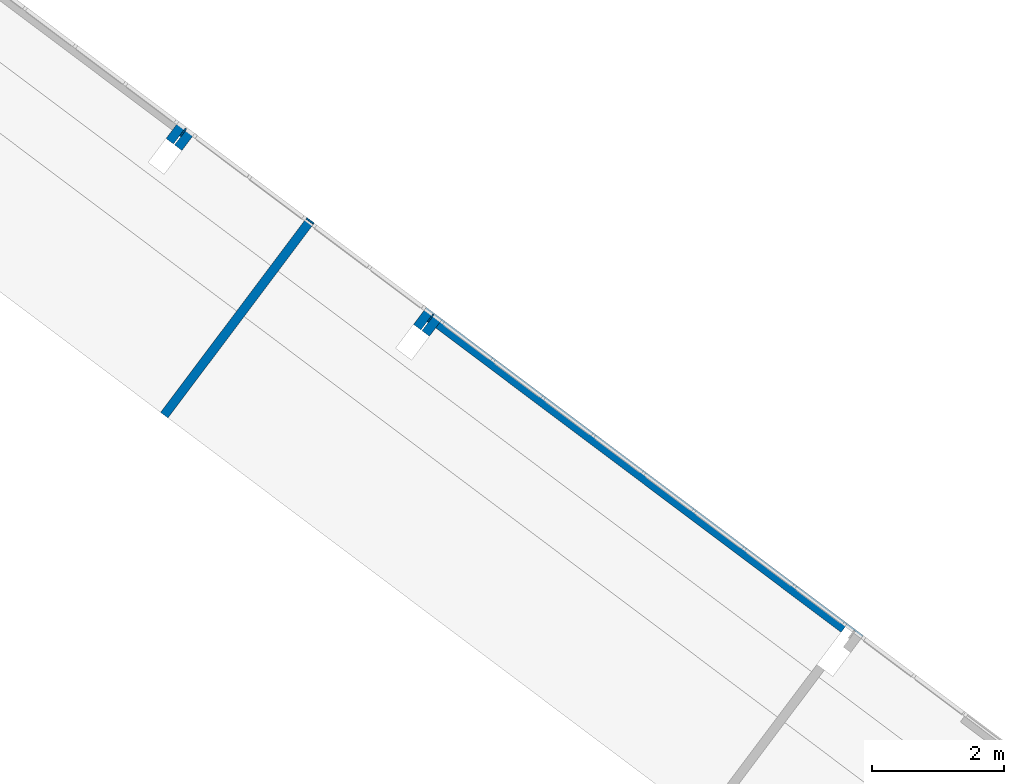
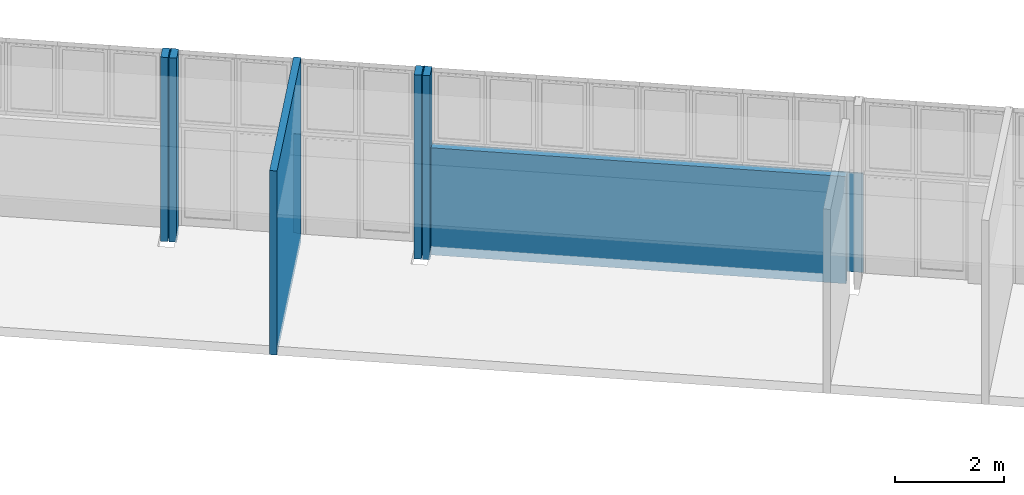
# One storey, part 6 of 18: 10 walls.
"""IFC2X3 building model written with IfcOpenShell, lengths in metres."""

from ifc_helpers import new_model, entity, si_unit, converted_unit, derived_unit, direction, frame, frame_2d, origin, place, context, subcontext, project, spatial, rectangle, extrude, material, layer, layer_set, layer_usage, type_object, element, save


model = new_model("IFC2X3")

# Units and contexts
model_context = context("Model", 3, precision=1e-05, world=origin(), true_north=direction((6.123031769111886e-17, 1.0)))
body_context = subcontext(model_context, "Body", "Model", "MODEL_VIEW")
ifc_project = project(units=[si_unit("LENGTHUNIT", "METRE"), si_unit("AREAUNIT", "SQUARE_METRE"), si_unit("VOLUMEUNIT", "CUBIC_METRE"), converted_unit("PLANEANGLEUNIT", "DEGREE", entity("IfcRatioMeasure", 0.017453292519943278), si_unit("PLANEANGLEUNIT", "RADIAN"), dimensions=[0, 0, 0, 0, 0, 0, 0]), si_unit("MASSUNIT", "GRAM", prefix="KILO"), derived_unit("MASSDENSITYUNIT", [(si_unit("MASSUNIT", "GRAM", prefix="KILO"), 1), (si_unit("LENGTHUNIT", "METRE"), -3)]), derived_unit("IONCONCENTRATIONUNIT", [(si_unit("MASSUNIT", "GRAM", prefix="KILO"), 1), (si_unit("LENGTHUNIT", "METRE"), -3)]), derived_unit("MOMENTOFINERTIAUNIT", [(si_unit("LENGTHUNIT", "METRE"), 4)]), si_unit("TIMEUNIT", "SECOND"), si_unit("FREQUENCYUNIT", "HERTZ"), si_unit("THERMODYNAMICTEMPERATUREUNIT", "DEGREE_CELSIUS"), derived_unit("THERMALTRANSMITTANCEUNIT", [(si_unit("MASSUNIT", "GRAM", prefix="KILO"), 1), (si_unit("THERMODYNAMICTEMPERATUREUNIT", "KELVIN"), -1), (si_unit("TIMEUNIT", "SECOND"), -3)]), derived_unit("THERMALCONDUCTANCEUNIT", [(si_unit("MASSUNIT", "GRAM", prefix="KILO"), 1), (si_unit("THERMODYNAMICTEMPERATUREUNIT", "KELVIN"), -1), (si_unit("TIMEUNIT", "SECOND"), -3), (si_unit("LENGTHUNIT", "METRE"), 1)]), derived_unit("VOLUMETRICFLOWRATEUNIT", [(si_unit("LENGTHUNIT", "METRE"), 3), (si_unit("TIMEUNIT", "SECOND"), -1)]), derived_unit("MASSFLOWRATEUNIT", [(si_unit("MASSUNIT", "GRAM", prefix="KILO"), 1), (si_unit("TIMEUNIT", "SECOND"), -1)]), derived_unit("ROTATIONALFREQUENCYUNIT", [(si_unit("TIMEUNIT", "SECOND"), -1)]), si_unit("ELECTRICCURRENTUNIT", "AMPERE"), si_unit("ELECTRICVOLTAGEUNIT", "VOLT"), si_unit("POWERUNIT", "WATT"), si_unit("FORCEUNIT", "NEWTON", prefix="KILO"), si_unit("ILLUMINANCEUNIT", "LUX"), si_unit("LUMINOUSFLUXUNIT", "LUMEN"), si_unit("LUMINOUSINTENSITYUNIT", "CANDELA"), derived_unit("USERDEFINED", [(si_unit("MASSUNIT", "GRAM", prefix="KILO"), -1), (si_unit("LENGTHUNIT", "METRE"), -2), (si_unit("TIMEUNIT", "SECOND"), 3), (si_unit("LUMINOUSFLUXUNIT", "LUMEN"), 1)]), derived_unit("USERDEFINED", [(si_unit("MASSUNIT", "GRAM", prefix="KILO"), 1), (si_unit("TIMEUNIT", "SECOND"), -3), (si_unit("LENGTHUNIT", "METRE"), 3), (si_unit("ELECTRICCURRENTUNIT", "AMPERE"), -2)]), derived_unit("SOUNDPOWERUNIT", [(si_unit("MASSUNIT", "GRAM", prefix="KILO"), 1), (si_unit("TIMEUNIT", "SECOND"), -3), (si_unit("LENGTHUNIT", "METRE"), 2)]), derived_unit("SOUNDPRESSUREUNIT", [(si_unit("MASSUNIT", "GRAM", prefix="KILO"), 1), (si_unit("LENGTHUNIT", "METRE"), -1), (si_unit("TIMEUNIT", "SECOND"), -2)]), derived_unit("LINEARVELOCITYUNIT", [(si_unit("LENGTHUNIT", "METRE"), 1), (si_unit("TIMEUNIT", "SECOND"), -1)]), si_unit("PRESSUREUNIT", "PASCAL"), derived_unit("USERDEFINED", [(si_unit("MASSUNIT", "GRAM", prefix="KILO"), 1), (si_unit("LENGTHUNIT", "METRE"), -2), (si_unit("TIMEUNIT", "SECOND"), -2)]), derived_unit("LINEARFORCEUNIT", [(si_unit("MASSUNIT", "GRAM", prefix="KILO"), 1), (si_unit("TIMEUNIT", "SECOND"), -2)]), derived_unit("PLANARFORCEUNIT", [(si_unit("MASSUNIT", "GRAM", prefix="KILO"), 1), (si_unit("LENGTHUNIT", "METRE"), -1), (si_unit("TIMEUNIT", "SECOND"), -2)]), derived_unit("SPECIFICHEATCAPACITYUNIT", [(si_unit("THERMODYNAMICTEMPERATUREUNIT", "KELVIN"), -1), (si_unit("LENGTHUNIT", "METRE"), 2), (si_unit("TIMEUNIT", "SECOND"), -2)]), derived_unit("HEATINGVALUEUNIT", [(si_unit("LENGTHUNIT", "METRE"), 2), (si_unit("TIMEUNIT", "SECOND"), -2)]), derived_unit("VAPORPERMEABILITYUNIT", [(si_unit("LENGTHUNIT", "METRE"), -1), (si_unit("TIMEUNIT", "SECOND"), 1)]), derived_unit("DYNAMICVISCOSITYUNIT", [(si_unit("MASSUNIT", "GRAM", prefix="KILO"), 1), (si_unit("TIMEUNIT", "SECOND"), -1), (si_unit("LENGTHUNIT", "METRE"), -1)]), derived_unit("THERMALEXPANSIONCOEFFICIENTUNIT", [(si_unit("THERMODYNAMICTEMPERATUREUNIT", "KELVIN"), -1)]), derived_unit("MODULUSOFELASTICITYUNIT", [(si_unit("MASSUNIT", "GRAM", prefix="KILO"), 1), (si_unit("LENGTHUNIT", "METRE"), -1), (si_unit("TIMEUNIT", "SECOND"), -2)]), derived_unit("ISOTHERMALMOISTURECAPACITYUNIT", [(si_unit("LENGTHUNIT", "METRE"), 3), (si_unit("MASSUNIT", "GRAM", prefix="KILO"), -1)]), derived_unit("MOISTUREDIFFUSIVITYUNIT", [(si_unit("TIMEUNIT", "SECOND"), -1), (si_unit("LENGTHUNIT", "METRE"), 2)])], contexts=[model_context])

# Site, building, storey
site_placement = place(None, frame((0.0, 0.0, 235.0), z_axis=(0.0, 0.0, 1.0), x_axis=(-0.7996477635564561, 0.6004693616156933, 0.0)))
site = spatial("IfcSite", under=ifc_project, at=site_placement, Name="Default", CompositionType="ELEMENT")
building_placement = place(site_placement, origin())
building = spatial("IfcBuilding", under=site, at=building_placement, CompositionType="ELEMENT")
storey_placement = place(building_placement, frame((0.0, 0.0, -4.459999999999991)))
storey = spatial("IfcBuildingStorey", under=building, at=storey_placement, Name="PS1- Vestuari", CompositionType="ELEMENT", Elevation=-4.459999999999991)

# Walls
ifc_material_1 = material(Name="_Ceràmica- ENV")
ifc_layer_1 = layer(ifc_material_1, 0.14)
ifc_layer_set_1 = layer_set([ifc_layer_1], Name="Muro básico:ENV- Ceràmic- 14 cm")
ifc_layer_usage_1 = layer_usage(ifc_layer_set_1, "AXIS2", "POSITIVE", -0.07)
wall_type_1 = type_object("IfcWallType", Name="Muro básico:ENV- Ceràmic- 14 cm", PredefinedType="STANDARD", material=ifc_layer_set_1)
for number, where, z_axis, x_axis, name in (
    (1, (66.51514768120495, -40.44019175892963, -0.2), (0.0, 0.0, 1.0), (0.0, 1.0, 0.0), "Muro básico:ENV- Ceràmic- 14 cm"),
    (2, (66.67514768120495, -40.14019175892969, -0.2), (0.0, 0.0, 1.0), (0.0, -1.0, 0.0), "Muro básico:ENV- Ceràmic- 14 cm"),
):
    element("IfcWallStandardCase", number, at=place(storey_placement, frame(where, z_axis=z_axis, x_axis=x_axis)), inside=storey, type_object=wall_type_1, material=ifc_layer_usage_1, Name=name, ObjectType="Muro básico:ENV- Ceràmic- 14 cm", context=body_context, shape_type="SweptSolid", body=[
        extrude(rectangle(XDim=0.2999999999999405, YDim=0.14000000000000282, at=frame_2d((0.14999999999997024, 0.0), x_axis=(-1.0, 0.0))), origin(), (0.0, 0.0, 1.0), 4.14),
    ])
wall_1_placement = place(storey_placement, frame((64.24514768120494, -36.76519175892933, -0.2), z_axis=(0.0, 0.0, 1.0), x_axis=(0.0, -1.0, 0.0)))
element("IfcWallStandardCase", 3, at=wall_1_placement, inside=storey, type_object=wall_type_1, material=ifc_layer_usage_1, Name="Muro básico:ENV- Ceràmic- 14 cm", ObjectType="Muro básico:ENV- Ceràmic- 14 cm", context=body_context, shape_type="SweptSolid", body=[
    extrude(rectangle(XDim=3.6750000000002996, YDim=0.14000000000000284, at=frame_2d((1.8375000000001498, 1.2559397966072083e-15), x_axis=(-1.0, 0.0))), origin(), (0.0, 0.0, 1.0), 4.14),
])
ifc_layer_usage_2 = layer_usage(ifc_layer_set_1, "AXIS2", "NEGATIVE", 0.07)
wall_2_placement = place(storey_placement, frame((54.045147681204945, -40.37019175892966, -0.2)))
element("IfcWallStandardCase", 4, at=wall_2_placement, inside=storey, type_object=wall_type_1, material=ifc_layer_usage_2, Name="Muro básico:ENV- Ceràmic- 14 cm", ObjectType="Muro básico:ENV- Ceràmic- 14 cm", context=body_context, shape_type="SweptSolid", body=[
    extrude(rectangle(XDim=7.699999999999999, YDim=0.14000000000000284, at=frame_2d((3.8499999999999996, 6.938893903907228e-17), x_axis=(-1.0, 0.0))), origin(), (0.0, 0.0, 1.0), 2.41),
])
for number, where, z_axis, x_axis, name in (
    (5, (61.975147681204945, -40.44019175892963, -0.2), (0.0, 0.0, 1.0), (0.0, 1.0, 0.0), "Muro básico:ENV- Ceràmic- 14 cm"),
    (6, (61.81514768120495, -40.14019175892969, -0.2), (0.0, 0.0, 1.0), (0.0, -1.0, 0.0), "Muro básico:ENV- Ceràmic- 14 cm"),
):
    element("IfcWallStandardCase", number, at=place(storey_placement, frame(where, z_axis=z_axis, x_axis=x_axis)), inside=storey, type_object=wall_type_1, material=ifc_layer_usage_2, Name=name, ObjectType="Muro básico:ENV- Ceràmic- 14 cm", context=body_context, shape_type="SweptSolid", body=[
        extrude(rectangle(XDim=0.2999999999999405, YDim=0.14000000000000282, at=frame_2d((0.14999999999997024, 0.0), x_axis=(-1.0, 0.0))), origin(), (0.0, 0.0, 1.0), 4.14),
    ])
wall_3_placement = place(storey_placement, frame((61.88514768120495, -40.37019175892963, -0.2)))
element("IfcWallStandardCase", 7, at=wall_3_placement, inside=storey, type_object=wall_type_1, material=ifc_layer_usage_2, Name="Muro básico:ENV- Ceràmic- 14 cm", ObjectType="Muro básico:ENV- Ceràmic- 14 cm", context=body_context, shape_type="SweptSolid", body=[
    extrude(rectangle(XDim=0.019999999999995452, YDim=0.14000000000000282, at=frame_2d((0.009999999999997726, 0.0), x_axis=(-1.0, 0.0))), origin(), (0.0, 0.0, 1.0), 4.14),
])
wall_4_placement = place(storey_placement, frame((66.60514768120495, -40.37019175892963, -0.2), z_axis=(0.0, 0.0, 1.0), x_axis=(-1.0, 0.0, 0.0)))
element("IfcWallStandardCase", 8, at=wall_4_placement, inside=storey, type_object=wall_type_1, material=ifc_layer_usage_1, Name="Muro básico:ENV- Ceràmic- 14 cm", ObjectType="Muro básico:ENV- Ceràmic- 14 cm", context=body_context, shape_type="SweptSolid", body=[
    extrude(rectangle(XDim=0.019999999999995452, YDim=0.14000000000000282, at=frame_2d((0.009999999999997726, 0.0), x_axis=(-1.0, 0.0))), origin(), (0.0, 0.0, 1.0), 4.14),
])
ifc_material_2 = material(Name="_Enrajolat Gresite- REV- PAV")
ifc_layer_2 = layer(ifc_material_2, 0.01)
ifc_material_3 = material(Name="_Morter Base - REV")
ifc_layer_3 = layer(ifc_material_3, 0.015)
ifc_layer_set_2 = layer_set([ifc_layer_2, ifc_layer_3], Name="Muro básico:REV- Enrajolat Gresite- T1- 2,5 cm")
ifc_layer_usage_3 = layer_usage(ifc_layer_set_2, "AXIS2", "NEGATIVE", 0.0125)
wall_type_2 = type_object("IfcWallType", Name="Muro básico:REV- Enrajolat Gresite- T1- 2,5 cm", PredefinedType="STANDARD", material=ifc_layer_set_2)
wall_5_placement = place(storey_placement, frame((62.045147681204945, -40.45269175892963, -0.019999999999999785), z_axis=(0.0, 0.0, 1.0), x_axis=(-1.0, 0.0, 0.0)))
element("IfcWallStandardCase", 9, at=wall_5_placement, inside=storey, type_object=wall_type_2, material=ifc_layer_usage_3, Name="Muro básico:REV- Enrajolat Gresite- T1- 2,5 cm", ObjectType="Muro básico:REV- Enrajolat Gresite- T1- 2,5 cm", context=body_context, shape_type="SweptSolid", body=[
    extrude(rectangle(XDim=8.300000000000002, YDim=0.02499999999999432, at=frame_2d((4.150000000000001, 0.0), x_axis=(-1.0, 0.0))), origin(), (0.0, 0.0, 1.0), 2.23),
])
ifc_material_4 = material(Name="_Alumini- T1- Perfil")
ifc_layer_4 = layer(ifc_material_4, 0.0009999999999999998)
ifc_material_5 = material(Name="_Genèric perfils, muntants, rastrells")
ifc_layer_5 = layer(ifc_material_5, 0.024)
ifc_layer_set_3 = layer_set([ifc_layer_4, ifc_layer_5], Name="Muro básico:REV- Alumini fusteries")
ifc_layer_usage_4 = layer_usage(ifc_layer_set_3, "AXIS2", "POSITIVE", -0.0125)
wall_type_3 = type_object("IfcWallType", Name="Muro básico:REV- Alumini fusteries", PredefinedType="STANDARD", material=ifc_layer_set_3)
wall_6_placement = place(storey_placement, frame((64.17514768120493, -40.45269175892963, -0.019999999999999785)))
element("IfcWallStandardCase", 10, at=wall_6_placement, inside=storey, type_object=wall_type_3, material=ifc_layer_usage_4, Name="Muro básico:REV- Alumini fusteries", ObjectType="Muro básico:REV- Alumini fusteries", context=body_context, shape_type="SweptSolid", body=[
    extrude(rectangle(XDim=0.14000000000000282, YDim=0.02499999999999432, at=frame_2d((0.07000000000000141, 0.0), x_axis=(-1.0, 0.0))), origin(), (0.0, 0.0, 1.0), 2.23),
])

save(model, "model.ifc")
